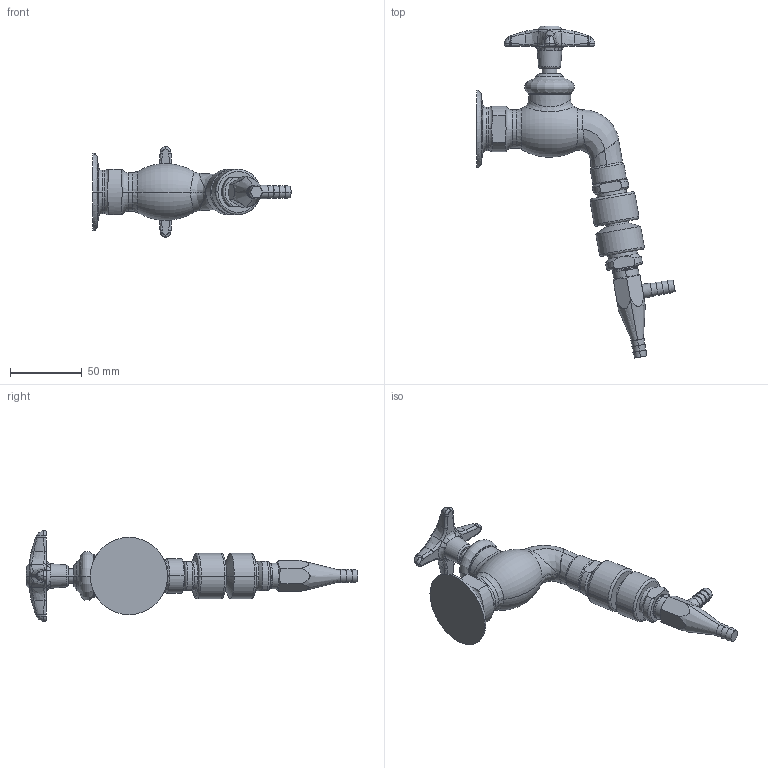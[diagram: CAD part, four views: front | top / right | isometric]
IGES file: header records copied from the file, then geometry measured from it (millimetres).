
Start section:  PTC IGES file: LWV3-A64.igs
Global section: file name: LWV3-A64.igs; native system: Creo Parametric by PTC Inc.; preprocessor: 2014500; author: usch_engrender; organization: Unknown; date: 20150910.121245; units: inch
Bounding box: 138.54 x 232 x 63.41 mm (x, y, z)
Volume: 172156 mm3; surface area: 34051.6 mm2
Topology: 1 solids, 5 shells, 324 faces, 718 edges, 421 vertices
Faces by surface type: bspline 204, revolution 120
